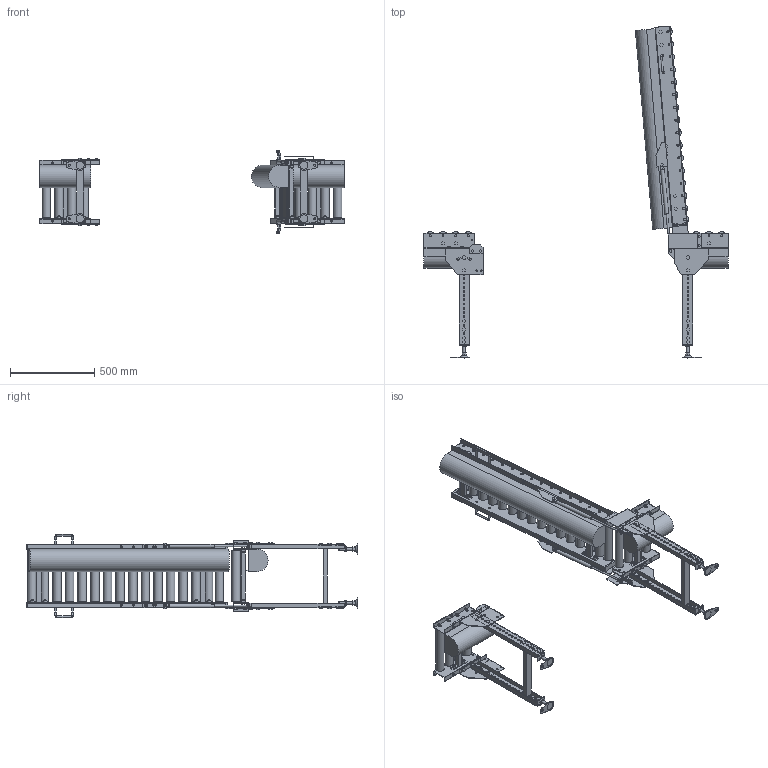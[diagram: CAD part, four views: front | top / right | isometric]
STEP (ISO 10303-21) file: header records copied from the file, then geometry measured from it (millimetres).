
FILE_DESCRIPTION( (''), '2;1');
FILE_NAME ('WEB-MCD50-315-75-120-L-HU.stp','2025-07-01T15:58:57',(''),(''),'spGate 20.6.2 (****-****-****-****)','','');
FILE_SCHEMA (('AUTOMOTIVE_DESIGN'));
Length unit declared in the file: millimetre
Products named in the file (30): WEB-MCD50-315-75-120-L-HU; TEMP_X_T-prt0; TEMP_X_T-prt1; TEMP_X_T-prt2; TEMP_X_T-prt3; TEMP_X_T-prt4; TEMP_X_T-prt5; TEMP_X_T-prt6; TEMP_X_T-prt7; TEMP_X_T-prt8; TEMP_X_T-prt9; TEMP_X_T-prt10; TEMP_X_T-prt11; TEMP_X_T-prt12; TEMP_X_T-prt13; TEMP_X_T-prt14; TEMP_X_T-prt15; TEMP_X_T-prt16; TEMP_X_T-prt17; TEMP_X_T-prt18; TEMP_X_T-prt19; TEMP_X_T-prt20; TEMP_X_T-prt21; TEMP_X_T-prt22; TEMP_X_T-prt23; TEMP_X_T-prt24; TEMP_X_T-prt25; TEMP_X_T-prt26; TEMP_X_T-prt27; TEMP_X_T-prt28
Assembly tree (29 placements, depth 2):
  WEB-MCD50-315-75-120-L-HU
    TEMP_X_T-prt0
    TEMP_X_T-prt1
    TEMP_X_T-prt2
    TEMP_X_T-prt3
    TEMP_X_T-prt4
    TEMP_X_T-prt5
    TEMP_X_T-prt6
    TEMP_X_T-prt7
    TEMP_X_T-prt8
    TEMP_X_T-prt9
    TEMP_X_T-prt10
    TEMP_X_T-prt11
    TEMP_X_T-prt12
    TEMP_X_T-prt13
    TEMP_X_T-prt14
    TEMP_X_T-prt15
    TEMP_X_T-prt16
    TEMP_X_T-prt17
    TEMP_X_T-prt18
    TEMP_X_T-prt19
    TEMP_X_T-prt20
    TEMP_X_T-prt21
    TEMP_X_T-prt22
    TEMP_X_T-prt23
    TEMP_X_T-prt24
    TEMP_X_T-prt25
    TEMP_X_T-prt26
    TEMP_X_T-prt27
    TEMP_X_T-prt28
Bounding box: 1800 x 1964.71 x 491.4 mm (x, y, z)
Volume: 44919715.7 mm3; surface area: 4561017.7 mm2
Topology: 29 solids, 55 shells, 2667 faces, 6750 edges, 4449 vertices
Faces by surface type: plane 2168, cylinder 481, bspline 18
Full cylindrical faces by diameter (mm): 8 x8, 8.5 x8, 9 x20, 10 x58, 10.5 x96, 11 x8, 12 x50, 13 x12, 14 x4, 15 x6, 15.4 x2, 15.7 x2, 16 x10, 17 x4, 18 x6, 18.4 x28, 18.5 x8, 21 x12, 22 x2, 50.8 x24
Entity records: 136960 total; most frequent: CARTESIAN_POINT 15402, DIRECTION 13698, ORIENTED_EDGE 13500, COLOUR_RGB 9446, PRESENTATION_STYLE_ASSIGNMENT 9446, STYLED_ITEM 9446, EDGE_CURVE 6750, DRAUGHTING_PRE_DEFINED_CURVE_FONT 6750
